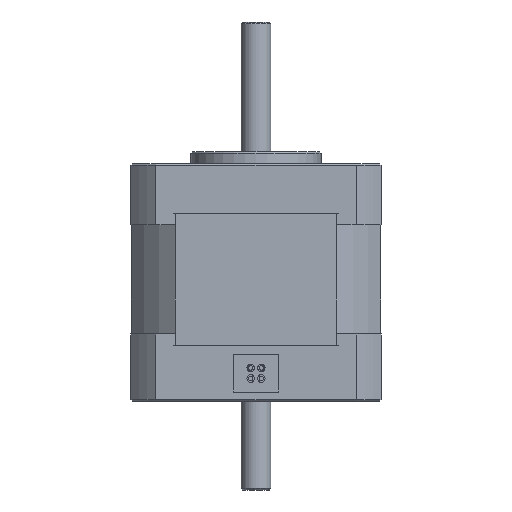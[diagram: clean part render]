
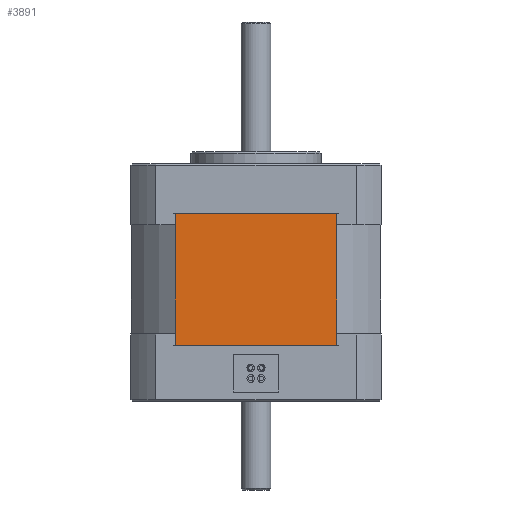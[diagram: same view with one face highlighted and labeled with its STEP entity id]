
A CAD part, front view. The second image highlights one B-rep face of the part: STEP entity #3891.
In plain terms, the highlighted planar face has unit normal (0, -1, 0).
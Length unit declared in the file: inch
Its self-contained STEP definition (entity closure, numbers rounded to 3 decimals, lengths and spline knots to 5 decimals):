
#1813 = DIRECTION ( 'NONE',  ( -1., 0., 0. ) ) ;
#1814 = VECTOR ( 'NONE', #1813, 39.37008 ) ;
#1818 = CARTESIAN_POINT ( 'NONE',  ( -0.53473, -0.829, -0.33 ) ) ;
#1832 = LINE ( 'NONE', #1956, #1814 ) ;
#1906 = CARTESIAN_POINT ( 'NONE',  ( 0.53473, -0.829, -0.33 ) ) ;
#1956 = CARTESIAN_POINT ( 'NONE',  ( 0.53473, -0.829, -0.33 ) ) ;
#3165 = VERTEX_POINT ( 'NONE', #7057 ) ;
#3230 = VERTEX_POINT ( 'NONE', #7076 ) ;
#3486 = EDGE_CURVE ( 'NONE', #3230, #3165, #8096, .T. ) ;
#3599 = VERTEX_POINT ( 'NONE', #1906 ) ;
#3606 = EDGE_CURVE ( 'NONE', #3599, #3607, #1832, .T. ) ;
#3607 = VERTEX_POINT ( 'NONE', #1818 ) ;
#3891 = ADVANCED_FACE ( 'NONE', ( #9897 ), #9869, .F. ) ;
#3892 = EDGE_CURVE ( 'NONE', #3165, #3607, #9864, .T. ) ;
#3893 = ORIENTED_EDGE ( 'NONE', *, *, #3927, .T. ) ;
#3924 = ORIENTED_EDGE ( 'NONE', *, *, #3606, .T. ) ;
#3927 = EDGE_CURVE ( 'NONE', #3230, #3599, #10101, .T. ) ;
#3928 = ORIENTED_EDGE ( 'NONE', *, *, #3892, .F. ) ;
#3931 = ORIENTED_EDGE ( 'NONE', *, *, #3486, .F. ) ;
#3933 = EDGE_LOOP ( 'NONE', ( #3924, #3928, #3931, #3893 ) ) ;
#7057 = CARTESIAN_POINT ( 'NONE',  ( -0.53473, -0.829, -1.205 ) ) ;
#7076 = CARTESIAN_POINT ( 'NONE',  ( 0.53473, -0.829, -1.205 ) ) ;
#8095 = CARTESIAN_POINT ( 'NONE',  ( 0.53473, -0.829, -1.205 ) ) ;
#8096 = LINE ( 'NONE', #8095, #8138 ) ;
#8137 = DIRECTION ( 'NONE',  ( -1., 0., 0. ) ) ;
#8138 = VECTOR ( 'NONE', #8137, 39.37008 ) ;
#9858 = DIRECTION ( 'NONE',  ( 0., 0., 1. ) ) ;
#9859 = VECTOR ( 'NONE', #9858, 39.37008 ) ;
#9860 = CARTESIAN_POINT ( 'NONE',  ( -0.53473, -0.829, -1.205 ) ) ;
#9864 = LINE ( 'NONE', #9860, #9859 ) ;
#9867 = DIRECTION ( 'NONE',  ( -1., 0., 0. ) ) ;
#9869 = PLANE ( 'NONE',  #9873 ) ;
#9871 = DIRECTION ( 'NONE',  ( 0., 1., 0. ) ) ;
#9872 = CARTESIAN_POINT ( 'NONE',  ( 0.53473, -0.829, -1.205 ) ) ;
#9873 = AXIS2_PLACEMENT_3D ( 'NONE', #9872, #9871, #9867 ) ;
#9897 = FACE_OUTER_BOUND ( 'NONE', #3933, .T. ) ;
#10071 = DIRECTION ( 'NONE',  ( 0., 0., 1. ) ) ;
#10080 = VECTOR ( 'NONE', #10071, 39.37008 ) ;
#10084 = CARTESIAN_POINT ( 'NONE',  ( 0.53473, -0.829, -1.205 ) ) ;
#10101 = LINE ( 'NONE', #10084, #10080 ) ;
